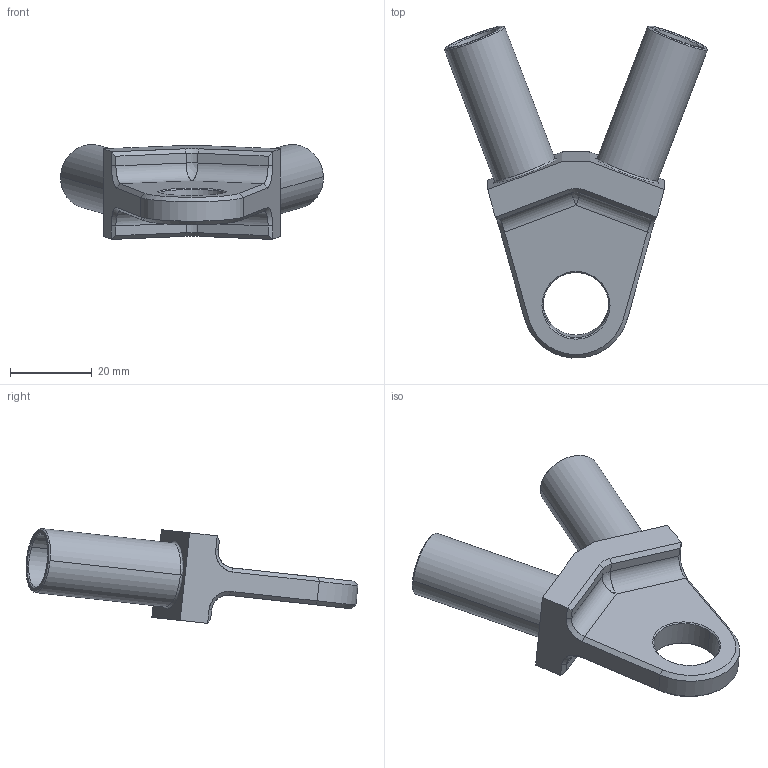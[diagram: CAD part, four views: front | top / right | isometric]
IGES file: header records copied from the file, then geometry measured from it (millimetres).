
Start section: START RECORD GO HERE.
Global section: file name: SU_02003 (Front Lower Rod-End Support).igs; native system: IBM CATIA IGES - CATIA Version 5 Release 19 ; preprocessor: CATIA Version 5 Release 19 ; author: Le Genie; organization: THUNDERBOLT-OF-; date: 20220127.113601; units: millimetre
Bounding box: 64.12 x 80.97 x 23.13 mm (x, y, z)
Surface area: 11365.5 mm2 (no closed solid volume)
Topology: 0 solids, 0 shells, 74 faces, 342 edges, 343 vertices
Faces by surface type: revolution 43, plane 23, bspline 8
